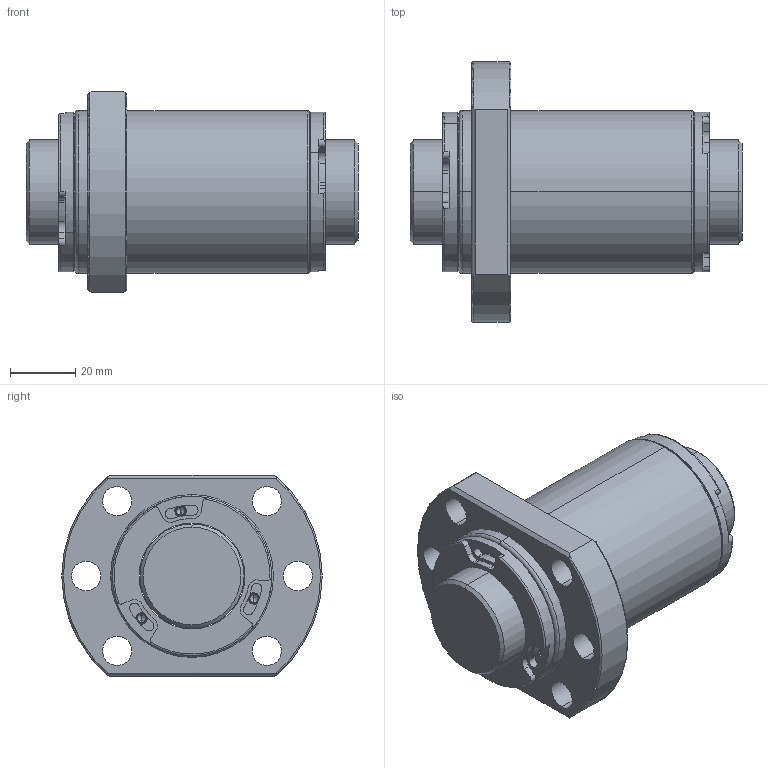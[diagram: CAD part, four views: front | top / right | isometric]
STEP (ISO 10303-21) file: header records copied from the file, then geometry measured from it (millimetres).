
FILE_DESCRIPTION (( 'STEP AP203' ), '1' );
FILE_NAME ('SFHR03232A1D-C.STEP', '2020-06-17T08:10:05', ( '' ), ( '' ), 'SwSTEP 2.0', 'SolidWorks 2013', '' );
FILE_SCHEMA (( 'CONFIG_CONTROL_DESIGN' ));
Length unit declared in the file: millimetre
Products named in the file (1): SFHR03232A1D-C
Bounding box: 102 x 80 x 62 mm (x, y, z)
Volume: 193413.2 mm3; surface area: 43739.8 mm2
Topology: 2 solids, 2 shells, 238 faces, 602 edges, 376 vertices
Faces by surface type: cylinder 128, plane 66, cone 28, torus 16
Entity records: 7551 total; most frequent: CARTESIAN_POINT 1533, DIRECTION 1386, ORIENTED_EDGE 1180, EDGE_CURVE 590, AXIS2_PLACEMENT_3D 589, VERTEX_POINT 376, CIRCLE 350, EDGE_LOOP 274
